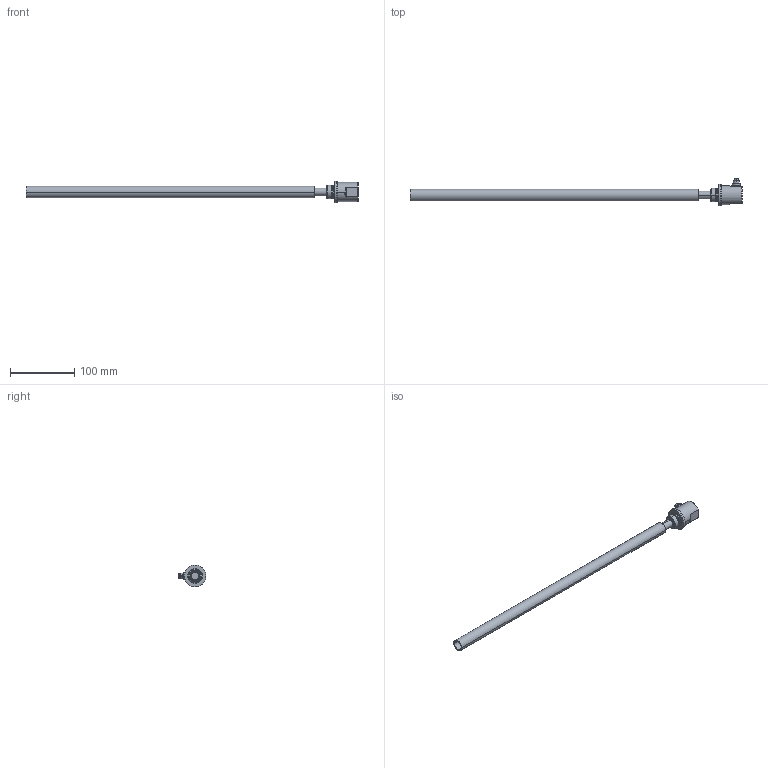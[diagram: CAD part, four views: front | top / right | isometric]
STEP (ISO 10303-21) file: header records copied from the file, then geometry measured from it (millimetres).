
FILE_DESCRIPTION((''),'2;1');
FILE_NAME('EDS-400-S-SR7_MIT_ROHR_ASM','2007-11-29T',('11000065'),(''),'PRO/ENGINEER BY PARAMETRIC TECHNOLOGY CORPORATION, 2007160','PRO/ENGINEER BY PARAMETRIC TECHNOLOGY CORPORATION, 2007160','');
FILE_SCHEMA(('AUTOMOTIVE_DESIGN { 1 2 10303 214 0 1 1 1 }'));
Length unit declared in the file: millimetre
Products named in the file (4): EDS-400-S-SR7; MESSROHR; O-RING-18X1_5; EDS-400-S-SR7_MIT_ROHR_ASM
Assembly tree (3 placements, depth 2):
  EDS-400-S-SR7_MIT_ROHR_ASM
    EDS-400-S-SR7
    MESSROHR
    O-RING-18X1_5
Bounding box: 518.5 x 43.69 x 34 mm (x, y, z)
Volume: 116657.9 mm3; surface area: 71155.9 mm2
Topology: 3 solids, 4 shells, 191 faces, 458 edges, 288 vertices
Faces by surface type: cylinder 93, plane 47, cone 20, sphere 14, torus 13, bspline 4
Entity records: 6263 total; most frequent: CARTESIAN_POINT 1307, DIRECTION 1048, ORIENTED_EDGE 888, AXIS2_PLACEMENT_3D 446, EDGE_CURVE 444, VERTEX_POINT 288, CIRCLE 252, EDGE_LOOP 222
